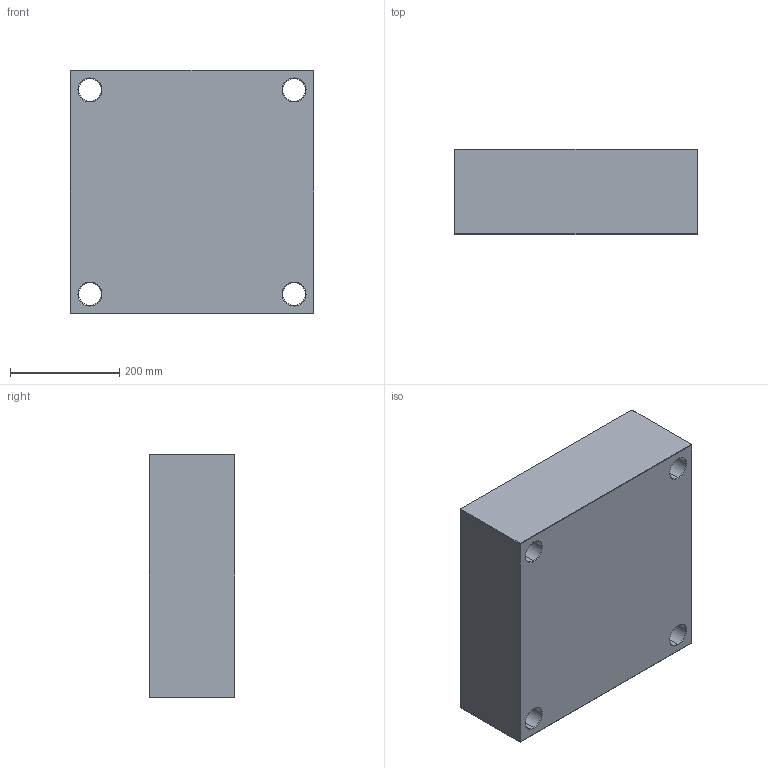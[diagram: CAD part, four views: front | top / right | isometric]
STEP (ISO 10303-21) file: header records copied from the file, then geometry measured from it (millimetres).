
FILE_DESCRIPTION (( 'STEP AP214' ), '1' );
FILE_NAME ('PC-446x446x156.STEP', '2020-04-21T17:39:03', ( 'August' ), ( '' ), 'SwSTEP 2.0', 'SolidWorks 2018', '' );
FILE_SCHEMA (( 'AUTOMOTIVE_DESIGN' ));
Length unit declared in the file: millimetre
Products named in the file (1): PC-446x446x156
Bounding box: 446 x 156 x 446 mm (x, y, z)
Volume: 30132816.8 mm3; surface area: 749665.6 mm2
Topology: 1 solids, 1 shells, 82 faces, 168 edges, 96 vertices
Faces by surface type: plane 34, cone 24, cylinder 24
Entity records: 2170 total; most frequent: DIRECTION 406, CARTESIAN_POINT 347, ORIENTED_EDGE 336, EDGE_CURVE 168, AXIS2_PLACEMENT_3D 155, EDGE_LOOP 98, VERTEX_POINT 96, VECTOR 96
